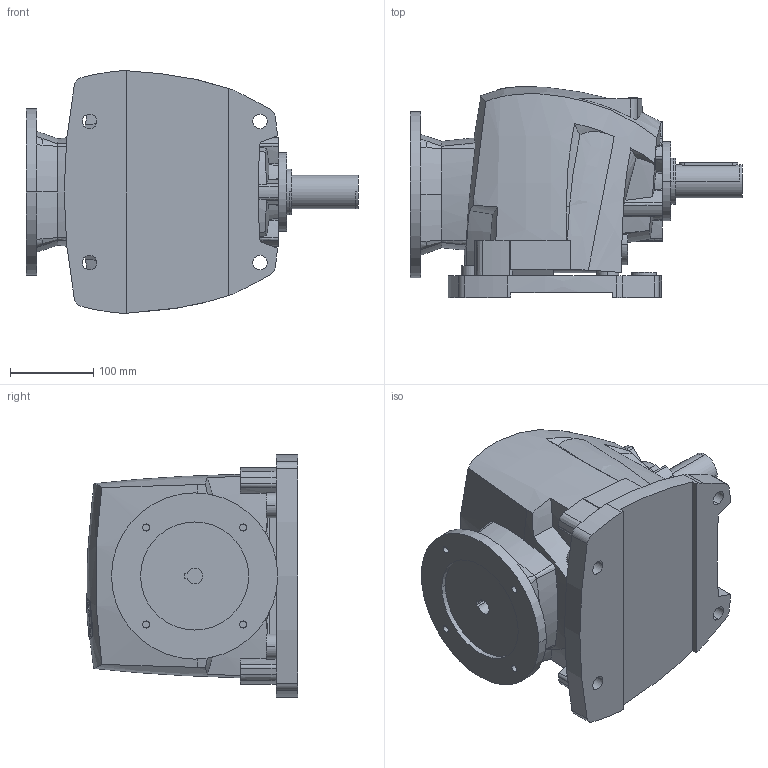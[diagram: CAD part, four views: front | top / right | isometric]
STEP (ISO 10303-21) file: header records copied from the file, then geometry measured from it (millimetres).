
FILE_DESCRIPTION((''),'2;1');
FILE_NAME('R40_SW_PAM80','2013-11-28T',('Luca'),(''),'PRO/ENGINEER BY PARAMETRIC TECHNOLOGY CORPORATION, 2008230','PRO/ENGINEER BY PARAMETRIC TECHNOLOGY CORPORATION, 2008230','');
FILE_SCHEMA(('CONFIG_CONTROL_DESIGN'));
Length unit declared in the file: millimetre
Products named in the file (1): R40_SW_PAM80
Bounding box: 399.5 x 254.38 x 292.31 mm (x, y, z)
Volume: 12390891.9 mm3; surface area: 504526.1 mm2
Topology: 1 solids, 5 shells, 469 faces, 1292 edges, 868 vertices
Faces by surface type: cylinder 164, plane 152, bspline 86, extrusion 39, cone 20, torus 8
Entity records: 19898 total; most frequent: CARTESIAN_POINT 8801, ORIENTED_EDGE 2580, DIRECTION 1814, EDGE_CURVE 1290, VERTEX_POINT 868, AXIS2_PLACEMENT_3D 616, VECTOR 582, LINE 543
